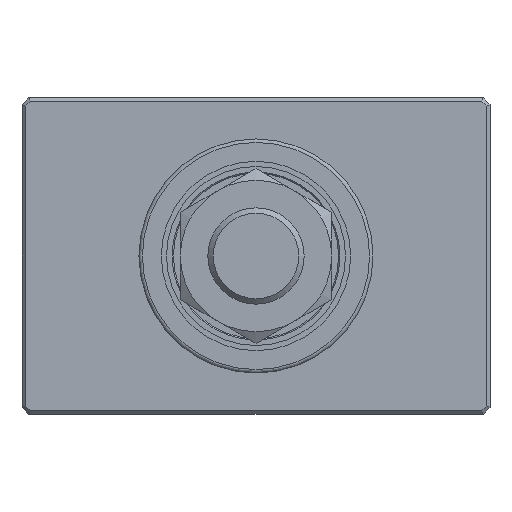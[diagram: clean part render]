
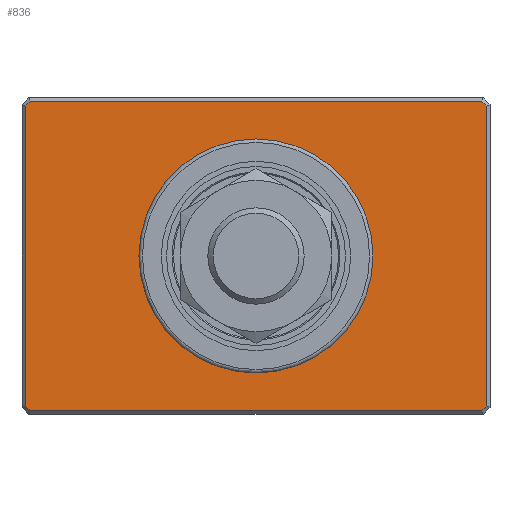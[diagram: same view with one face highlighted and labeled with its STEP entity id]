
A CAD part, front view. The second image highlights one B-rep face of the part: STEP entity #836.
In plain terms, the highlighted planar face has unit normal (0, -1, 0).
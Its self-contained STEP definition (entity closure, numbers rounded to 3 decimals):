
#525=CARTESIAN_POINT('',(33.5,-21.,21.793));
#526=VERTEX_POINT('',#525);
#533=CARTESIAN_POINT('',(33.5,-21.,-21.793));
#534=VERTEX_POINT('',#533);
#535=CARTESIAN_POINT('',(33.5,-21.,21.793));
#536=DIRECTION('',(0.0,0.0,-1.0));
#537=VECTOR('',#536,43.586);
#538=LINE('',#535,#537);
#539=EDGE_CURVE('',#526,#534,#538,.T.);
#555=CARTESIAN_POINT('',(32.793,-21.,22.5));
#556=VERTEX_POINT('',#555);
#557=CARTESIAN_POINT('',(32.793,-21.,22.5));
#558=DIRECTION('',(0.707,0.0,-0.707));
#559=VECTOR('',#558,1.);
#560=LINE('',#557,#559);
#561=EDGE_CURVE('',#556,#526,#560,.T.);
#579=CARTESIAN_POINT('',(-32.793,-21.,22.5));
#580=VERTEX_POINT('',#579);
#581=CARTESIAN_POINT('',(-32.793,-21.,22.5));
#582=DIRECTION('',(1.0,0.0,0.0));
#583=VECTOR('',#582,65.586);
#584=LINE('',#581,#583);
#585=EDGE_CURVE('',#580,#556,#584,.T.);
#603=CARTESIAN_POINT('',(-32.793,-21.,-22.5));
#604=VERTEX_POINT('',#603);
#605=CARTESIAN_POINT('',(-33.5,-21.,-21.793));
#606=VERTEX_POINT('',#605);
#607=CARTESIAN_POINT('',(-32.793,-21.,-22.5));
#608=DIRECTION('',(-0.707,0.0,0.707));
#609=VECTOR('',#608,1.);
#610=LINE('',#607,#609);
#611=EDGE_CURVE('',#604,#606,#610,.T.);
#650=CARTESIAN_POINT('',(-33.5,-21.,21.793));
#651=VERTEX_POINT('',#650);
#652=CARTESIAN_POINT('',(-33.5,-21.,-21.793));
#653=DIRECTION('',(0.0,0.0,1.0));
#654=VECTOR('',#653,43.586);
#655=LINE('',#652,#654);
#656=EDGE_CURVE('',#606,#651,#655,.T.);
#672=CARTESIAN_POINT('',(-33.5,-21.,21.793));
#673=DIRECTION('',(0.707,0.0,0.707));
#674=VECTOR('',#673,1.);
#675=LINE('',#672,#674);
#676=EDGE_CURVE('',#651,#580,#675,.T.);
#689=CARTESIAN_POINT('',(32.793,-21.,-22.5));
#690=VERTEX_POINT('',#689);
#691=CARTESIAN_POINT('',(32.793,-21.,-22.5));
#692=DIRECTION('',(-1.0,0.0,0.0));
#693=VECTOR('',#692,65.586);
#694=LINE('',#691,#693);
#695=EDGE_CURVE('',#690,#604,#694,.T.);
#720=CARTESIAN_POINT('',(33.5,-21.,-21.793));
#721=DIRECTION('',(-0.707,0.0,-0.707));
#722=VECTOR('',#721,1.);
#723=LINE('',#720,#722);
#724=EDGE_CURVE('',#534,#690,#723,.T.);
#810=CARTESIAN_POINT('',(0.0,-21.,-23.));
#811=DIRECTION('',(0.0,-1.0,0.0));
#812=DIRECTION('',(0.0,0.0,-1.0));
#813=AXIS2_PLACEMENT_3D('',#810,#811,#812);
#814=PLANE('',#813);
#815=ORIENTED_EDGE('',*,*,#611,.F.);
#816=ORIENTED_EDGE('',*,*,#695,.F.);
#817=ORIENTED_EDGE('',*,*,#724,.F.);
#818=ORIENTED_EDGE('',*,*,#539,.F.);
#819=ORIENTED_EDGE('',*,*,#561,.F.);
#820=ORIENTED_EDGE('',*,*,#585,.F.);
#821=ORIENTED_EDGE('',*,*,#676,.F.);
#822=ORIENTED_EDGE('',*,*,#656,.F.);
#823=EDGE_LOOP('',(#815,#816,#817,#818,#819,#820,#821,#822));
#824=FACE_OUTER_BOUND('',#823,.T.);
#825=CARTESIAN_POINT('',(0.0,-21.,17.0));
#826=VERTEX_POINT('',#825);
#827=CARTESIAN_POINT('',(0.0,-21.,0.0));
#828=DIRECTION('',(0.0,1.0,0.0));
#829=DIRECTION('',(0.0,0.0,1.0));
#830=AXIS2_PLACEMENT_3D('',#827,#828,#829);
#831=CIRCLE('',#830,17.0);
#832=EDGE_CURVE('',#826,#826,#831,.T.);
#833=ORIENTED_EDGE('',*,*,#832,.T.);
#834=EDGE_LOOP('',(#833));
#835=FACE_BOUND('',#834,.T.);
#836=ADVANCED_FACE('',(#824,#835),#814,.T.);
